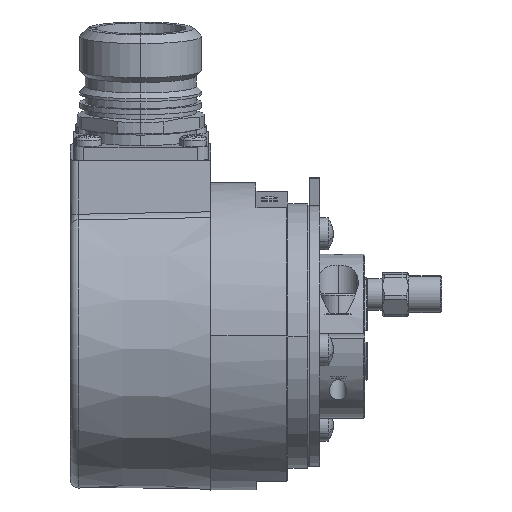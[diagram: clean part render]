
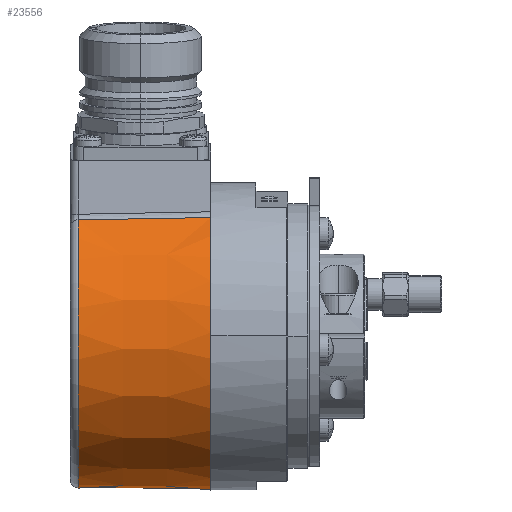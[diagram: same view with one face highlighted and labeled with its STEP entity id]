
A CAD part, top view. The second image highlights one B-rep face of the part: STEP entity #23556.
In plain terms, the highlighted conical face has half-angle 0.75 degrees and reference radius 29 mm.
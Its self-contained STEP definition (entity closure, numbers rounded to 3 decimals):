
#23493 = EDGE_LOOP ( 'NONE', ( #23506, #23516, #24044, #24088 ) ) ;
#23501 = EDGE_CURVE ( 'NONE', #23554, #23739, #24013, .T. ) ;
#23506 = ORIENTED_EDGE ( 'NONE', *, *, #23501, .T. ) ;
#23516 = ORIENTED_EDGE ( 'NONE', *, *, #23589, .T. ) ;
#23554 = VERTEX_POINT ( 'NONE', #24059 ) ;
#23556 = ADVANCED_FACE ( 'NONE', ( #24058 ), #24040, .T. ) ;
#23589 = EDGE_CURVE ( 'NONE', #23739, #23592, #24035, .T. ) ;
#23592 = VERTEX_POINT ( 'NONE', #24089 ) ;
#23690 = VERTEX_POINT ( 'NONE', #24069 ) ;
#23739 = VERTEX_POINT ( 'NONE', #24114 ) ;
#24009 = DIRECTION ( 'NONE',  ( 0., 0.993, 0.122 ) ) ;
#24010 = DIRECTION ( 'NONE',  ( 1., 0., 0. ) ) ;
#24011 = CARTESIAN_POINT ( 'NONE',  ( -17.52, 0., 0. ) ) ;
#24012 = AXIS2_PLACEMENT_3D ( 'NONE', #24011, #24010, #24009 ) ;
#24013 = CIRCLE ( 'NONE', #24012, 28.672 ) ;
#24035 = LINE ( 'NONE', #24092, #24091 ) ;
#24036 = DIRECTION ( 'NONE',  ( 0., -0.993, -0.122 ) ) ;
#24037 = DIRECTION ( 'NONE',  ( 1., 0., 0. ) ) ;
#24038 = CARTESIAN_POINT ( 'NONE',  ( 7.5, 0., 0. ) ) ;
#24039 = AXIS2_PLACEMENT_3D ( 'NONE', #24038, #24037, #24036 ) ;
#24040 = CONICAL_SURFACE ( 'NONE', #24039, 29., 0.013 ) ;
#24044 = ORIENTED_EDGE ( 'NONE', *, *, #24045, .T. ) ;
#24045 = EDGE_CURVE ( 'NONE', #23592, #23690, #24093, .T. ) ;
#24058 = FACE_OUTER_BOUND ( 'NONE', #23493, .T. ) ;
#24059 = CARTESIAN_POINT ( 'NONE',  ( -17.52, 21.923, 18.479 ) ) ;
#24069 = CARTESIAN_POINT ( 'NONE',  ( 7.5, 22.36, 18.467 ) ) ;
#24088 = ORIENTED_EDGE ( 'NONE', *, *, #24106, .T. ) ;
#24089 = CARTESIAN_POINT ( 'NONE',  ( 7.5, -28.784, -3.534 ) ) ;
#24090 = DIRECTION ( 'NONE',  ( 1., -0.013, -0.002 ) ) ;
#24091 = VECTOR ( 'NONE', #24090, 1000. ) ;
#24092 = CARTESIAN_POINT ( 'NONE',  ( 7.5, -28.784, -3.534 ) ) ;
#24093 = CIRCLE ( 'NONE', #24148, 29. ) ;
#24106 = EDGE_CURVE ( 'NONE', #23690, #23554, #24143, .T. ) ;
#24114 = CARTESIAN_POINT ( 'NONE',  ( -17.52, -28.459, -3.494 ) ) ;
#24126 = CARTESIAN_POINT ( 'NONE',  ( -17.52, 21.923, 18.479 ) ) ;
#24127 = CARTESIAN_POINT ( 'NONE',  ( -14.179, 21.982, 18.477 ) ) ;
#24128 = CARTESIAN_POINT ( 'NONE',  ( -10.838, 22.04, 18.476 ) ) ;
#24129 = CARTESIAN_POINT ( 'NONE',  ( -7.498, 22.099, 18.474 ) ) ;
#24130 = CARTESIAN_POINT ( 'NONE',  ( -3.498, 22.169, 18.472 ) ) ;
#24131 = CARTESIAN_POINT ( 'NONE',  ( 0.501, 22.238, 18.47 ) ) ;
#24132 = CARTESIAN_POINT ( 'NONE',  ( 4.5, 22.308, 18.469 ) ) ;
#24133 = CARTESIAN_POINT ( 'NONE',  ( 5.5, 22.325, 18.468 ) ) ;
#24134 = CARTESIAN_POINT ( 'NONE',  ( 6.5, 22.343, 18.468 ) ) ;
#24135 = CARTESIAN_POINT ( 'NONE',  ( 7.5, 22.36, 18.467 ) ) ;
#24143 = B_SPLINE_CURVE_WITH_KNOTS ( 'NONE', 3,
 ( #24135, #24134, #24133, #24132, #24131, #24130, #24129, #24128, #24127, #24126 ),
 .UNSPECIFIED., .F., .F.,
 ( 4, 3, 3, 4 ),
 ( 0., 0.003, 0.015, 0.025 ),
 .UNSPECIFIED. ) ;
#24145 = DIRECTION ( 'NONE',  ( 0., 0.993, 0.122 ) ) ;
#24146 = DIRECTION ( 'NONE',  ( -1., 0., 0. ) ) ;
#24147 = CARTESIAN_POINT ( 'NONE',  ( 7.5, 0., 0. ) ) ;
#24148 = AXIS2_PLACEMENT_3D ( 'NONE', #24147, #24146, #24145 ) ;
